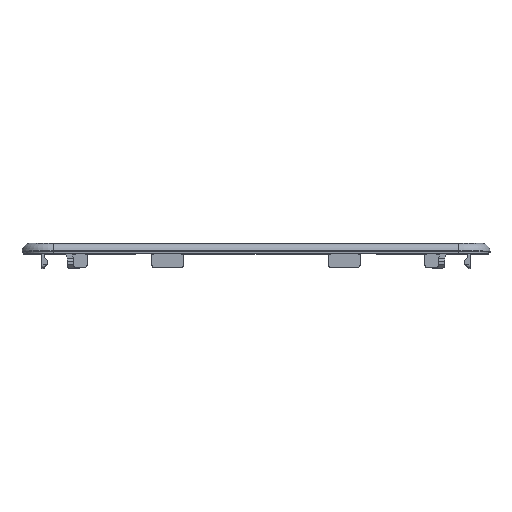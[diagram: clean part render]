
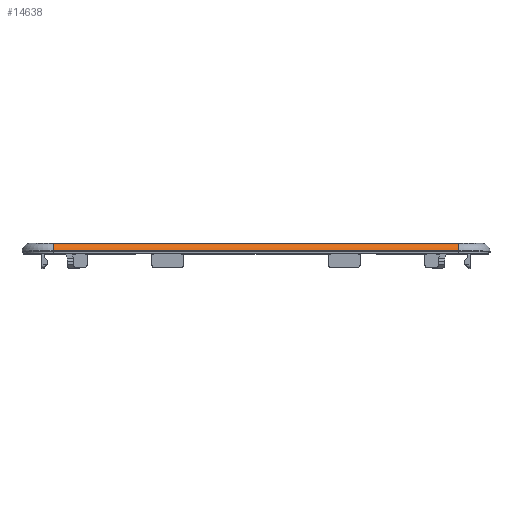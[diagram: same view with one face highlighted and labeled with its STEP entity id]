
A CAD part, top view. The second image highlights one B-rep face of the part: STEP entity #14638.
In plain terms, the highlighted cylindrical face has radius 2 mm (diameter 4 mm), a partial arc.
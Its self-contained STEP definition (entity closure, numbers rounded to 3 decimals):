
#16=DIRECTION('',(1.,0.,0.));
#17=VECTOR('',#16,101.);
#18=CARTESIAN_POINT('',(-50.5,29.7,53.771));
#19=LINE('',#18,#17);
#5346=DIRECTION('',(1.,0.,0.));
#5347=VECTOR('',#5346,101.);
#5348=CARTESIAN_POINT('',(-50.5,27.805,55.768));
#5349=LINE('',#5348,#5347);
#5409=CARTESIAN_POINT('',(-50.5,27.7,53.771));
#5410=DIRECTION('',(1.,0.,0.));
#5411=DIRECTION('',(0.,1.,0.));
#5412=AXIS2_PLACEMENT_3D('',#5409,#5410,#5411);
#5414=CARTESIAN_POINT('',(50.5,27.7,53.771));
#5415=DIRECTION('',(1.,0.,0.));
#5416=DIRECTION('',(0.,1.,0.));
#5417=AXIS2_PLACEMENT_3D('',#5414,#5415,#5416);
#6134=CARTESIAN_POINT('',(-50.5,29.7,53.771));
#6135=VERTEX_POINT('',#6134);
#6136=CARTESIAN_POINT('',(-50.5,27.805,55.768));
#6137=VERTEX_POINT('',#6136);
#6138=CARTESIAN_POINT('',(50.5,29.7,53.771));
#6139=VERTEX_POINT('',#6138);
#6140=CARTESIAN_POINT('',(50.5,27.805,55.768));
#6141=VERTEX_POINT('',#6140);
#14626=CARTESIAN_POINT('',(-50.753,27.7,53.771));
#14627=DIRECTION('',(1.,0.,0.));
#14628=DIRECTION('',(0.,1.,0.));
#14629=AXIS2_PLACEMENT_3D('',#14626,#14627,#14628);
#14630=CYLINDRICAL_SURFACE('',#14629,2.);
#14631=ORIENTED_EDGE('',*,*,#6919,.T.);
#14633=ORIENTED_EDGE('',*,*,#14632,.T.);
#14634=ORIENTED_EDGE('',*,*,#14540,.F.);
#14635=ORIENTED_EDGE('',*,*,#14619,.F.);
#14636=EDGE_LOOP('',(#14631,#14633,#14634,#14635));
#14637=FACE_OUTER_BOUND('',#14636,.F.);
#14638=ADVANCED_FACE('',(#14637),#14630,.T.);
#5413=CIRCLE('',#5412,2.);
#5418=CIRCLE('',#5417,2.);
#6919=EDGE_CURVE('',#6135,#6139,#19,.T.);
#14540=EDGE_CURVE('',#6137,#6141,#5349,.T.);
#14619=EDGE_CURVE('',#6135,#6137,#5413,.T.);
#14632=EDGE_CURVE('',#6139,#6141,#5418,.T.);
